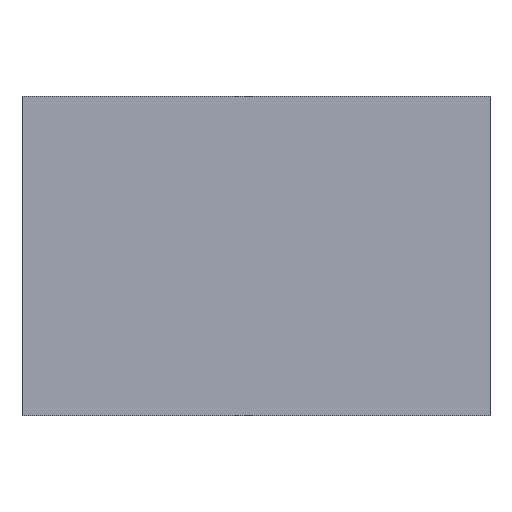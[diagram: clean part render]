
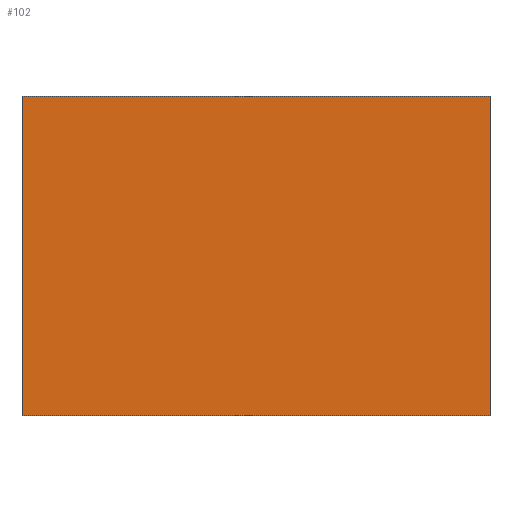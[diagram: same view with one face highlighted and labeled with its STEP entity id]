
A CAD part, left-side view. The second image highlights one B-rep face of the part: STEP entity #102.
In plain terms, the highlighted planar face has unit normal (-1, 0, 0).
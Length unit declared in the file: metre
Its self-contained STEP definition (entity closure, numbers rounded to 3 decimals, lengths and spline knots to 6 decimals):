
#28=ORIENTED_EDGE('',*,*,#38,.F.);
#29=ORIENTED_EDGE('',*,*,#42,.T.);
#30=ORIENTED_EDGE('',*,*,#45,.F.);
#31=ORIENTED_EDGE('',*,*,#47,.F.);
#38=EDGE_CURVE('',#50,#51,#58,.T.);
#42=EDGE_CURVE('',#50,#53,#62,.T.);
#45=EDGE_CURVE('',#55,#53,#65,.T.);
#47=EDGE_CURVE('',#51,#55,#67,.T.);
#50=VERTEX_POINT('',#155);
#51=VERTEX_POINT('',#157);
#53=VERTEX_POINT('',#163);
#55=VERTEX_POINT('',#169);
#58=LINE('',#156,#70);
#62=LINE('',#164,#74);
#65=LINE('',#170,#77);
#67=LINE('',#173,#79);
#70=VECTOR('',#129,1.);
#74=VECTOR('',#135,1.);
#77=VECTOR('',#140,1.);
#79=VECTOR('',#144,1.);
#84=EDGE_LOOP('',(#28,#29,#30,#31));
#90=FACE_BOUND('',#84,.T.);
#96=PLANE('',#121);
#102=ADVANCED_FACE('',(#90),#96,.T.);
#121=AXIS2_PLACEMENT_3D('',#174,#145,#146);
#129=DIRECTION('',(0.,-1.,0.));
#135=DIRECTION('',(0.,0.,-1.));
#140=DIRECTION('',(0.,1.,0.));
#144=DIRECTION('',(0.,0.,-1.));
#145=DIRECTION('',(-1.,0.,0.));
#146=DIRECTION('',(0.,-1.,0.));
#155=CARTESIAN_POINT('',(-0.037,-0.025238,0.005421));
#156=CARTESIAN_POINT('',(-0.037,-0.02799,0.005421));
#157=CARTESIAN_POINT('',(-0.037,-0.030741,0.005421));
#163=CARTESIAN_POINT('',(-0.037,-0.025238,0.001662));
#164=CARTESIAN_POINT('',(-0.037,-0.025238,0.003541));
#169=CARTESIAN_POINT('',(-0.037,-0.030741,0.001662));
#170=CARTESIAN_POINT('',(-0.037,-0.02799,0.001662));
#173=CARTESIAN_POINT('',(-0.037,-0.030741,0.003541));
#174=CARTESIAN_POINT('',(-0.037,-0.0325,0.));
